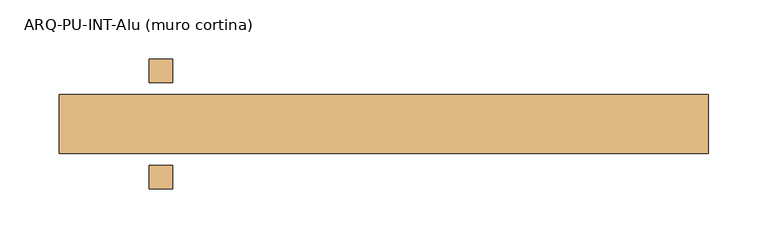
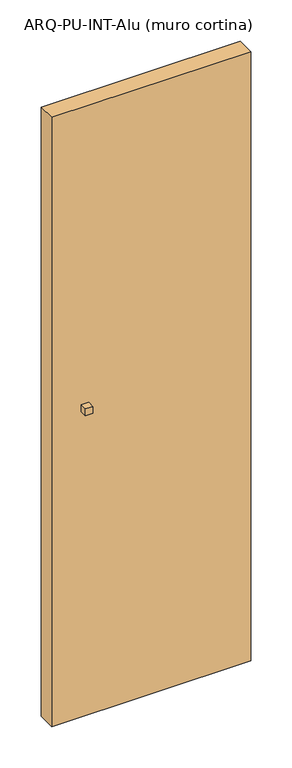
"""IFC4 building model written with IfcOpenShell, lengths in millimetres: door geometry, ARQ-PU-INT-Alu (muro cortina) : ARQ-PU-IN-Alu-sshh."""

from ifc_helpers import new_model, si_unit, frame, origin, origin_with_axes, place, context, project, spatial, polyline, outline, extrude, source, transform, mapped, element, save


def arq_pu_int_alu_muro_cortina_8b8c43b7(model_context):
    return source(origin(), model_context, "Body", "SweptSolid", [
        extrude(outline(polyline([(-178.8, -30.0), (-198.8, -30.0), (-198.8, -10.0), (-178.8, -10.0), (-178.8, -30.0)])), frame((0.0, 0.0, 900.0), z_axis=(0.0, 0.0, 1.0), x_axis=(1.0, 0.0, 0.0)), (0.0, 0.0, 1.0), 20.0),
        extrude(outline(polyline([(-198.8, 80.0), (-178.8, 80.0), (-178.8, 60.0), (-198.8, 60.0), (-198.8, 80.0)])), frame((0.0, 0.0, 900.0), z_axis=(0.0, 0.0, 1.0), x_axis=(1.0, 0.0, 0.0)), (0.0, 0.0, 1.0), 20.0),
        extrude(outline(polyline([(275.0, 50.0), (275.0, 0.0), (-275.0, 0.0), (-275.0, 50.0), (275.0, 50.0)])), origin_with_axes(), (0.0, 0.0, 1.0), 1780.0),
    ])


if __name__ == "__main__":
    model = new_model("IFC4")
    model_context = context("Model", 3, world=origin())
    ifc_project = project(units=[si_unit("LENGTHUNIT", "METRE", prefix="MILLI")], contexts=[model_context])
    site = spatial("IfcSite", under=ifc_project)
    building = spatial("IfcBuilding", under=site)
    placement = place(None, origin())
    arq_pu_int_alu_muro_cortina_shape = arq_pu_int_alu_muro_cortina_8b8c43b7(model_context)
    element("IfcDoor", 1, ObjectType="ARQ-PU-INT-Alu (muro cortina) : ARQ-PU-IN-Alu-sshh", at=placement, inside=building, context=model_context, shape_type="MappedRepresentation", body=[
        mapped(arq_pu_int_alu_muro_cortina_shape, transform((0.0, 0.0, 0.0), x_axis=(1.0, 0.0, 0.0), y_axis=(0.0, 1.0, 0.0), z_axis=(0.0, 0.0, 1.0))),
    ])
    save(model, "model.ifc")
